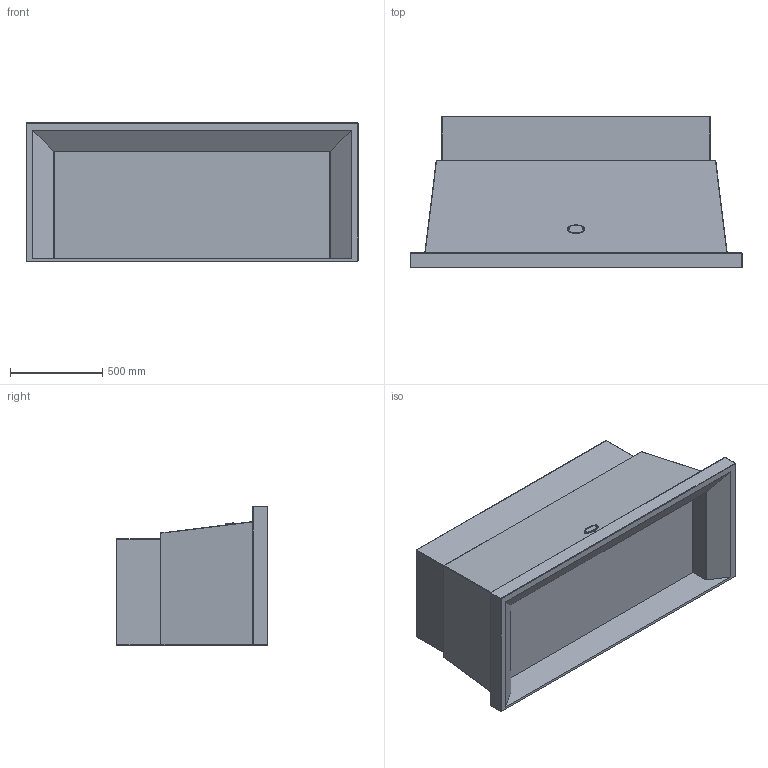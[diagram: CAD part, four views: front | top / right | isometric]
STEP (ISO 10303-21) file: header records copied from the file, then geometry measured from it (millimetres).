
FILE_DESCRIPTION((''),'2;1');
FILE_NAME('EXPORT_LHM1800_ASM','2020-10-27T09:42:45',('r.avril'),(''),'CREO PARAMETRIC BY PTC INC, 2017260','CREO PARAMETRIC BY PTC INC, 2017260','');
FILE_SCHEMA(('AP203_CONFIGURATION_CONTROLLED_3D_DESIGN_OF_MECHANICAL_PARTS_AND_ASSEMBLIES_MIM_LF { 1 0 10303 403 2 1 2 }'));
Length unit declared in the file: millimetre
Products named in the file (7): EXPORT_LHM1800; 65650001; 65049009; 65049009_GRAVURE; 65049009_ASM; 6531792; EXPORT_LHM1800_ASM
Assembly tree (7 placements, depth 3):
  EXPORT_LHM1800_ASM
    EXPORT_LHM1800
    65650001
    65049009_ASM
      65049009
      65049009_GRAVURE
    6531792  x2
Bounding box: 1800 x 820 x 750 mm (x, y, z)
Volume: 462977755.8 mm3; surface area: 6999152.5 mm2
Topology: 5 solids, 7 shells, 149 faces, 331 edges, 196 vertices
Faces by surface type: cylinder 60, plane 49, cone 14, sphere 12, bspline 10, torus 2, extrusion 2
Entity records: 8141 total; most frequent: CARTESIAN_POINT 2892, DIRECTION 725, ORIENTED_EDGE 594, EDGE_CURVE 299, AXIS2_PLACEMENT_3D 275, PROPERTY_DEFINITION 270, REPRESENTATION 265, PROPERTY_DEFINITION_REPRESENTATION 265
